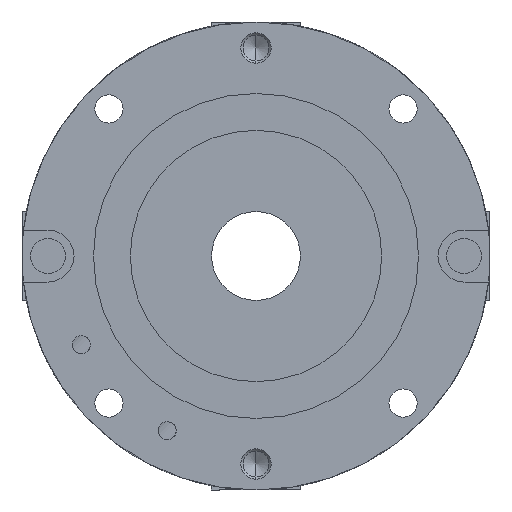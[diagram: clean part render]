
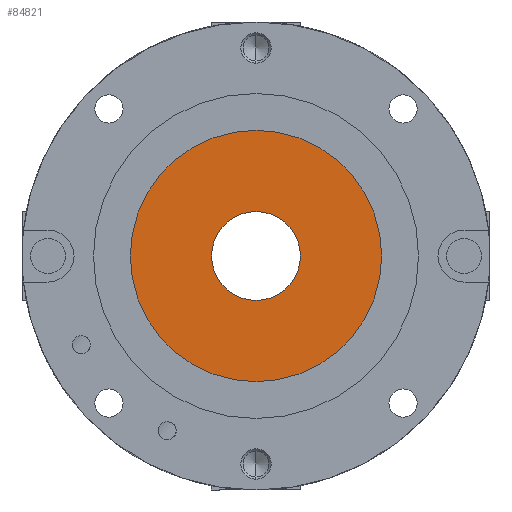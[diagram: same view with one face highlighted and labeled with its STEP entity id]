
A CAD part, front view. The second image highlights one B-rep face of the part: STEP entity #84821.
In plain terms, the highlighted planar face has unit normal (0, -1, 0).
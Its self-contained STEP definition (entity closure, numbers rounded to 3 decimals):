
#5975 = CIRCLE ( 'NONE', #45958, 29. ) ;
#9174 = CARTESIAN_POINT ( 'NONE',  ( 0., 0., -29. ) ) ;
#13463 = EDGE_LOOP ( 'NONE', ( #41361, #44739 ) ) ;
#15128 = FACE_OUTER_BOUND ( 'NONE', #39575, .T. ) ;
#17984 = CARTESIAN_POINT ( 'NONE',  ( 0., 0., 29. ) ) ;
#20126 = VERTEX_POINT ( 'NONE', #17984 ) ;
#25817 = CIRCLE ( 'NONE', #51686, 10.25 ) ;
#29533 = PLANE ( 'NONE',  #96003 ) ;
#30657 = AXIS2_PLACEMENT_3D ( 'NONE', #38856, #93426, #46690 ) ;
#31782 = EDGE_CURVE ( 'NONE', #71853, #20126, #34519, .T. ) ;
#33064 = CIRCLE ( 'NONE', #38032, 10.25 ) ;
#34519 = CIRCLE ( 'NONE', #30657, 29. ) ;
#36522 = DIRECTION ( 'NONE',  ( 0., 1., 0. ) ) ;
#37390 = DIRECTION ( 'NONE',  ( 0., 0., 1. ) ) ;
#38032 = AXIS2_PLACEMENT_3D ( 'NONE', #38505, #93067, #46346 ) ;
#38505 = CARTESIAN_POINT ( 'NONE',  ( 0., 0., 0. ) ) ;
#38856 = CARTESIAN_POINT ( 'NONE',  ( 0., 0., 0. ) ) ;
#39575 = EDGE_LOOP ( 'NONE', ( #95676, #96759 ) ) ;
#40638 = DIRECTION ( 'NONE',  ( 0., -1., 0. ) ) ;
#41361 = ORIENTED_EDGE ( 'NONE', *, *, #45732, .F. ) ;
#44739 = ORIENTED_EDGE ( 'NONE', *, *, #100125, .F. ) ;
#45732 = EDGE_CURVE ( 'NONE', #96608, #70141, #33064, .T. ) ;
#45958 = AXIS2_PLACEMENT_3D ( 'NONE', #83287, #36522, #91093 ) ;
#46346 = DIRECTION ( 'NONE',  ( 0., 0., 1. ) ) ;
#46690 = DIRECTION ( 'NONE',  ( 0., 0., -1. ) ) ;
#51447 = EDGE_CURVE ( 'NONE', #20126, #71853, #5975, .T. ) ;
#51686 = AXIS2_PLACEMENT_3D ( 'NONE', #87365, #40638, #95199 ) ;
#53151 = CARTESIAN_POINT ( 'NONE',  ( 0., 0., -10.25 ) ) ;
#56749 = FACE_BOUND ( 'NONE', #13463, .T. ) ;
#56886 = CARTESIAN_POINT ( 'NONE',  ( 0., 0., 10.25 ) ) ;
#68460 = CARTESIAN_POINT ( 'NONE',  ( 0., 0., 0. ) ) ;
#70141 = VERTEX_POINT ( 'NONE', #53151 ) ;
#71853 = VERTEX_POINT ( 'NONE', #9174 ) ;
#83287 = CARTESIAN_POINT ( 'NONE',  ( 0., 0., 0. ) ) ;
#84153 = DIRECTION ( 'NONE',  ( 0., 1., 0. ) ) ;
#84821 = ADVANCED_FACE ( 'NONE', ( #15128, #56749 ), #29533, .F. ) ;
#87365 = CARTESIAN_POINT ( 'NONE',  ( 0., 0., 0. ) ) ;
#91093 = DIRECTION ( 'NONE',  ( 0., 0., -1. ) ) ;
#93067 = DIRECTION ( 'NONE',  ( 0., -1., 0. ) ) ;
#93426 = DIRECTION ( 'NONE',  ( 0., 1., 0. ) ) ;
#95199 = DIRECTION ( 'NONE',  ( 0., 0., 1. ) ) ;
#95676 = ORIENTED_EDGE ( 'NONE', *, *, #31782, .F. ) ;
#96003 = AXIS2_PLACEMENT_3D ( 'NONE', #68460, #84153, #37390 ) ;
#96608 = VERTEX_POINT ( 'NONE', #56886 ) ;
#96759 = ORIENTED_EDGE ( 'NONE', *, *, #51447, .F. ) ;
#100125 = EDGE_CURVE ( 'NONE', #70141, #96608, #25817, .T. ) ;
